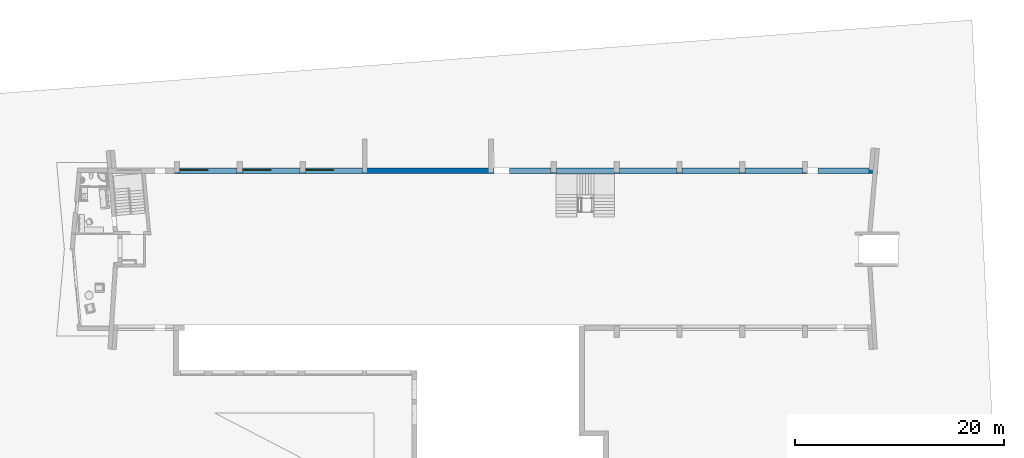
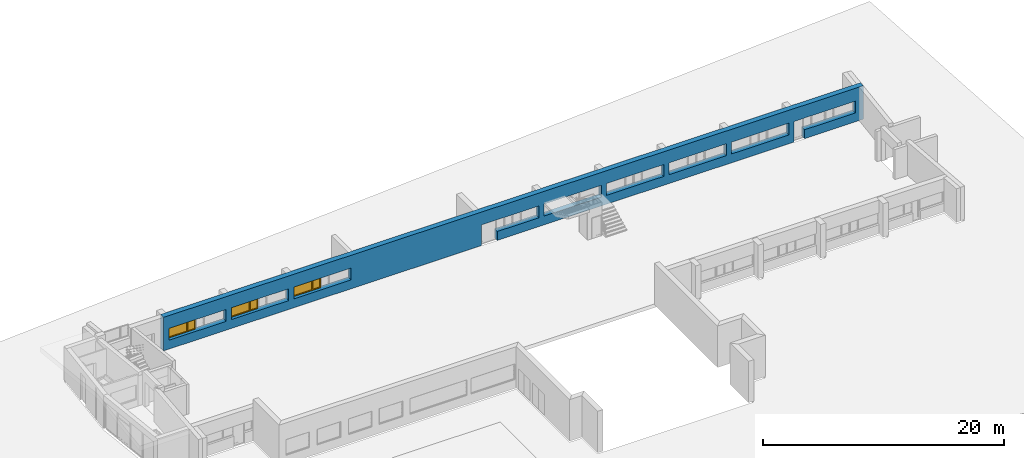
# One storey, part 5 of 36: 3 windows, 1 wall, 20 openings.
"""IFC2X3 building model written with IfcOpenShell, lengths in millimetres."""

import ifcopenshell
import ifcopenshell.guid

model = None  # the IFC model being written
_history = None  # IfcOwnerHistory: only IFC2X3 demands one
_inside = {}  # id of a spatial element -> (the spatial element, [elements in it])
_under = {}  # id of a project, library or spatial element -> (it, [spatial elements below it])
_declared = {}  # id of a project -> (the project, [libraries it declares])
_typed = {}  # id of a type object -> (the type object, [elements of that type])
_made_of = {}  # id of a material, layer set ... -> (it, [elements and type objects made of it])


def new_model(schema):
    """Start an empty IFC model of exactly this schema.

    Asked for "IFC4X3", IfcOpenShell would pick the latest addendum, in which some entities
    have other attributes; the version numbers below select the first issue.
    IFC2X3 requires an IfcOwnerHistory on every rooted entity: one is made here for all.
    """
    global model, _history
    if schema == "IFC4X3":
        model = ifcopenshell.file(schema_version=(4, 3, 0, 0))
    else:
        model = ifcopenshell.file(schema=schema)
    _inside.clear()
    _under.clear()
    _declared.clear()
    _typed.clear()
    _made_of.clear()
    _history = None
    if model.schema == "IFC2X3":
        org = make("IfcOrganization", Name="unknown")
        user = make(
            "IfcPersonAndOrganization",
            ThePerson=make("IfcPerson", FamilyName="unknown"),
            TheOrganization=org,
        )
        app = make(
            "IfcApplication",
            ApplicationDeveloper=org,
            Version="unknown",
            ApplicationFullName="unknown",
            ApplicationIdentifier="unknown",
        )
        _history = make(
            "IfcOwnerHistory",
            OwningUser=user,
            OwningApplication=app,
            ChangeAction="ADDED",
            CreationDate=0,
        )
    return model


def make(cls, **values):
    """One entity of the class cls with the attributes given. An attribute that is None is left unset."""
    return model.create_entity(
        cls, **{name: value for name, value in values.items() if value is not None}
    )


def entity(cls, *values):
    """Any entity or typed value of the class cls, its attributes in the order of the schema. None: left unset."""
    e = model.create_entity(cls)
    for i, value in enumerate(values):
        if value is not None:
            e[i] = value
    return e


def rooted(cls, **values):
    """An entity with a GlobalId (a new one), such as an element, a storey or a relation."""
    return make(cls, GlobalId=ifcopenshell.guid.new(), OwnerHistory=_history, **values)


def si_unit(unit_type, name, prefix=None):
    """IfcSIUnit, for example si_unit("LENGTHUNIT", "METRE", prefix="MILLI")."""
    return make("IfcSIUnit", UnitType=unit_type, Prefix=prefix, Name=name)


def converted_unit(unit_type, name, factor, base, dimensions=None, offset=None):
    """IfcConversionBasedUnit, such as the inch: factor (a typed value) times the base unit."""
    return make(
        "IfcConversionBasedUnit"
        if offset is None
        else "IfcConversionBasedUnitWithOffset",
        ConversionOffset=offset,
        Dimensions=None
        if dimensions is None
        else entity("IfcDimensionalExponents", *dimensions),
        UnitType=unit_type,
        Name=name,
        ConversionFactor=make(
            "IfcMeasureWithUnit", ValueComponent=factor, UnitComponent=base
        ),
    )


def money_unit(currency):
    """IfcMonetaryUnit."""
    return make("IfcMonetaryUnit", Currency=currency)


def assignment(units):
    """IfcUnitAssignment: the units of a project."""
    return None if units is None else make("IfcUnitAssignment", Units=units)


def point(xyz):
    """IfcCartesianPoint."""
    return None if xyz is None else make("IfcCartesianPoint", Coordinates=xyz)


def direction(xyz):
    """IfcDirection."""
    return None if xyz is None else make("IfcDirection", DirectionRatios=xyz)


def frame(location, z_axis=None, x_axis=None):
    """IfcAxis2Placement3D, a coordinate frame: its origin and axes. An axis left out is left unset."""
    return make(
        "IfcAxis2Placement3D",
        Location=point(location),
        Axis=direction(z_axis),
        RefDirection=direction(x_axis),
    )


def origin_with_axes():
    """The frame at (0, 0, 0) with the z axis (0, 0, 1) and the x axis (1, 0, 0) written out."""
    return frame((0.0, 0.0, 0.0), z_axis=(0.0, 0.0, 1.0), x_axis=(1.0, 0.0, 0.0))


def place(relative_to, where):
    """IfcLocalPlacement: puts the frame where relative to a parent placement (None: the world)."""
    return make(
        "IfcLocalPlacement", PlacementRelTo=relative_to, RelativePlacement=where
    )


def context(
    kind, dimensions, precision=None, world=None, true_north=None, identifier=None
):
    """IfcGeometricRepresentationContext, for example the 3D "Model" context."""
    return make(
        "IfcGeometricRepresentationContext",
        ContextIdentifier=identifier,
        ContextType=kind,
        CoordinateSpaceDimension=dimensions,
        Precision=precision,
        WorldCoordinateSystem=world,
        TrueNorth=true_north,
    )


def subcontext(parent, identifier, kind, view, scale=None):
    """IfcGeometricRepresentationSubContext, for example "Body" below "Model"."""
    return make(
        "IfcGeometricRepresentationSubContext",
        ContextIdentifier=identifier,
        ContextType=kind,
        ParentContext=parent,
        TargetScale=scale,
        TargetView=view,
    )


def project(units=None, contexts=None):
    """IfcProject with its units and contexts."""
    return rooted(
        "IfcProject",
        Name="project",
        RepresentationContexts=contexts,
        UnitsInContext=assignment(units),
    )


def spatial(cls, under=None, at=None, **own):
    """A site, building, storey or space (cls), placed at a placement, below another one or the project."""
    s = rooted(cls, ObjectPlacement=at, **own)
    if under is not None:
        _under.setdefault(under.id(), (under, []))[1].append(s)
    return s


def polyline(points):
    """IfcPolyline through the points."""
    return make("IfcPolyline", Points=[point(p) for p in points])


def outline(outer, holes=None, kind="AREA"):
    """IfcArbitraryClosedProfileDef: a profile drawn as a closed curve; with holes, ...WithVoids."""
    if holes is None:
        return make("IfcArbitraryClosedProfileDef", ProfileType=kind, OuterCurve=outer)
    return make(
        "IfcArbitraryProfileDefWithVoids",
        ProfileType=kind,
        OuterCurve=outer,
        InnerCurves=holes,
    )


def extrude(swept, where, along, depth):
    """IfcExtrudedAreaSolid: the profile swept, set in the frame where, extruded along a direction by depth."""
    return make(
        "IfcExtrudedAreaSolid",
        SweptArea=swept,
        Position=where,
        ExtrudedDirection=direction(along),
        Depth=depth,
    )


def faces_of(points, faces, orient=None, outer=None):
    """IfcFace entities. A face is a list of loops; a loop is a list of indices into points, from 0.

    orient and outer hold one flag for each loop. By default every Orientation is true, the
    first loop of a face is its IfcFaceOuterBound and the others are IfcFaceBound.
    """
    made = []
    for i, loops in enumerate(faces):
        bounds = []
        for j, loop in enumerate(loops):
            is_outer = j == 0 if outer is None else outer[i][j]
            bounds.append(
                make(
                    "IfcFaceOuterBound" if is_outer else "IfcFaceBound",
                    Bound=make("IfcPolyLoop", Polygon=[points[k] for k in loop]),
                    Orientation=True if orient is None else orient[i][j],
                )
            )
        made.append(make("IfcFace", Bounds=bounds))
    return made


def open_shell(faces, orient=None, outer=None):
    """The faces of one IfcOpenShell. surface_model builds it on its shared points."""
    return ("IfcOpenShell", faces, orient, outer)


def faceted_brep(points, faces, orient=None, outer=None, voids=None):
    """IfcFacetedBrep: a solid bounded by flat faces; with voids (closed shells), ...WithVoids."""
    shared = [point(p) for p in points]
    hull = make("IfcClosedShell", CfsFaces=faces_of(shared, faces, orient, outer))
    if voids is None:
        return make("IfcFacetedBrep", Outer=hull)
    return make(
        "IfcFacetedBrepWithVoids",
        Outer=hull,
        Voids=[
            make(cls, CfsFaces=faces_of(shared, fs, o, b)) for cls, fs, o, b in voids
        ],
    )


def surface_model(cls, points, shells):
    """IfcFaceBasedSurfaceModel or IfcShellBasedSurfaceModel (cls): surfaces that need not close."""
    shared = [point(p) for p in points]
    made = [make(c, CfsFaces=faces_of(shared, fs, o, b)) for c, fs, o, b in shells]
    if cls == "IfcFaceBasedSurfaceModel":
        return make(cls, FbsmFaces=made)
    return make(cls, SbsmBoundary=made)


def shape(context_of_items, identifier, shape_type, items):
    """IfcShapeRepresentation: the items that make up one representation, for example the "Body"."""
    return make(
        "IfcShapeRepresentation",
        ContextOfItems=context_of_items,
        RepresentationIdentifier=identifier,
        RepresentationType=shape_type,
        Items=items,
    )


def source(mapping_origin, context_of_items, identifier, shape_type, items):
    """IfcRepresentationMap: a shape defined once, which mapped items show again and again."""
    return make(
        "IfcRepresentationMap",
        MappingOrigin=mapping_origin,
        MappedRepresentation=shape(context_of_items, identifier, shape_type, items),
    )


def transform(
    local_origin,
    x_axis=None,
    y_axis=None,
    z_axis=None,
    scale=None,
    scale2=None,
    scale3=None,
    uniform=True,
):
    """IfcCartesianTransformationOperator3D, or its non-uniform kind. x_axis, y_axis, z_axis: its Axis1, 2, 3."""
    if uniform:
        return make(
            "IfcCartesianTransformationOperator3D",
            Axis1=direction(x_axis),
            Axis2=direction(y_axis),
            LocalOrigin=point(local_origin),
            Scale=scale,
            Axis3=direction(z_axis),
        )
    return make(
        "IfcCartesianTransformationOperator3DnonUniform",
        Axis1=direction(x_axis),
        Axis2=direction(y_axis),
        LocalOrigin=point(local_origin),
        Scale=scale,
        Axis3=direction(z_axis),
        Scale2=scale2,
        Scale3=scale3,
    )


def mapped(mapping_source, mapping_target):
    """IfcMappedItem: shows the shape of a source again, moved by a transform."""
    return make(
        "IfcMappedItem", MappingSource=mapping_source, MappingTarget=mapping_target
    )


def material(Name=None, Category=None):
    """IfcMaterial."""
    return make("IfcMaterial", Name=Name, Category=Category)


def material_list(materials):
    """IfcMaterialList."""
    return make("IfcMaterialList", Materials=materials)


def layer(
    of_material, thickness, ventilated=None, Name=None, Category=None, Priority=None
):
    """IfcMaterialLayer: one layer of a wall or slab, of a material (None: an air gap)."""
    return make(
        "IfcMaterialLayer",
        Material=of_material,
        LayerThickness=thickness,
        IsVentilated=ventilated,
        Name=Name,
        Category=Category,
        Priority=Priority,
    )


def layer_set(layers, Name=None):
    """IfcMaterialLayerSet."""
    return make("IfcMaterialLayerSet", MaterialLayers=layers, LayerSetName=Name)


def layer_usage(for_layer_set, set_direction, sense, offset, extent=None):
    """IfcMaterialLayerSetUsage: how a layer set lies in its element."""
    return make(
        "IfcMaterialLayerSetUsage",
        ForLayerSet=for_layer_set,
        LayerSetDirection=set_direction,
        DirectionSense=sense,
        OffsetFromReferenceLine=offset,
        ReferenceExtent=extent,
    )


def made_of(thing, what):
    """Note that an element or type object is made of a material, layer set ...; save() writes the relation."""
    if what is not None:
        _made_of.setdefault(what.id(), (what, []))[1].append(thing)
    return thing


def type_object(cls, material=None, **own):
    """A type object (cls), such as IfcWallType, which elements share."""
    return made_of(rooted(cls, **own), material)


def element(
    cls,
    number,
    at=None,
    inside=None,
    cuts=None,
    type_object=None,
    material=None,
    context=None,
    identifier="Body",
    shape_type=None,
    held_by="IfcProductDefinitionShape",
    body=None,
    shapes=None,
    **own,
):
    """One element of the class cls, such as IfcWall. Its Tag is "e" and its number.

    at: its placement. inside: the storey or other place that contains it. cuts: it is an
    opening in that element (IfcRelVoidsElement). A single representation is given by context,
    identifier, shape_type and body (its items); several are given by shapes. held_by: the class
    of the entity that holds the representations. save() writes the other relations.
    """
    e = rooted(cls, Tag="e%d" % number, ObjectPlacement=at, **own)
    if body is not None:
        shapes = [shape(context, identifier, shape_type, body)]
    if shapes is not None:
        e.Representation = make(held_by, Representations=shapes)
    if inside is not None:
        _inside.setdefault(inside.id(), (inside, []))[1].append(e)
    if cuts is not None:
        rooted(
            "IfcRelVoidsElement", RelatingBuildingElement=cuts, RelatedOpeningElement=e
        )
    if type_object is not None:
        _typed.setdefault(type_object.id(), (type_object, []))[1].append(e)
    return made_of(e, material)


def fill(opening, filler):
    """IfcRelFillsElement: the door or window that sits in an opening."""
    return rooted(
        "IfcRelFillsElement",
        RelatingOpeningElement=opening,
        RelatedBuildingElement=filler,
    )


def aggregate(whole, parts):
    """IfcRelAggregates: a whole, such as a stair, and the parts it consists of."""
    return rooted("IfcRelAggregates", RelatingObject=whole, RelatedObjects=parts)


def save(model, path):
    """Write the relations noted so far, then the file.

    IfcRelAggregates (storeys below a building ...), IfcRelContainedInSpatialStructure (elements
    in a storey), IfcRelDefinesByType, IfcRelAssociatesMaterial and IfcRelDeclares: one each for
    every whole, place, type object, material and project.
    """
    for whole, parts in _under.values():
        aggregate(whole, parts)
    for where, things in _inside.values():
        rooted(
            "IfcRelContainedInSpatialStructure",
            RelatedElements=things,
            RelatingStructure=where,
        )
    for kind, things in _typed.values():
        rooted("IfcRelDefinesByType", RelatedObjects=things, RelatingType=kind)
    for what, things in _made_of.values():
        rooted("IfcRelAssociatesMaterial", RelatedObjects=things, RelatingMaterial=what)
    for by, libraries in _declared.values():
        rooted("IfcRelDeclares", RelatingContext=by, RelatedDefinitions=libraries)
    model.write(path)


model = new_model("IFC2X3")

# Units and contexts
model_context = context("Model", 3, precision=1e-05, world=origin_with_axes(), true_north=direction((0.0, 1.0)))
body_context = subcontext(model_context, "Body", "Model", "MODEL_VIEW")
ifc_project = project(units=[si_unit("LENGTHUNIT", "METRE", prefix="MILLI"), si_unit("AREAUNIT", "SQUARE_METRE"), si_unit("VOLUMEUNIT", "CUBIC_METRE"), converted_unit("PLANEANGLEUNIT", "DEGREE", entity("IfcPlaneAngleMeasure", 0.0174532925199), si_unit("PLANEANGLEUNIT", "RADIAN"), dimensions=[0, 0, 0, 0, 0, 0, 0]), si_unit("SOLIDANGLEUNIT", "STERADIAN"), money_unit("USD"), converted_unit("TIMEUNIT", "Year", entity("IfcTimeMeasure", 31556926.0), si_unit("TIMEUNIT", "SECOND"), dimensions=[0, 0, 0, 0, 0, 0, 0]), si_unit("MASSUNIT", "GRAM"), si_unit("THERMODYNAMICTEMPERATUREUNIT", "DEGREE_CELSIUS"), si_unit("LUMINOUSINTENSITYUNIT", "LUMEN")], contexts=[model_context])

# Site, building, storey
site_placement = place(None, origin_with_axes())
site = spatial("IfcSite", under=ifc_project, at=site_placement, Name="Site", CompositionType="ELEMENT")
building_placement = place(site_placement, origin_with_axes())
building = spatial("IfcBuilding", under=site, at=building_placement, Name="Building", CompositionType="ELEMENT")
storey_placement = place(building_placement, frame((0.0, 0.0, -3400.0), z_axis=(0.0, 0.0, 1.0), x_axis=(1.0, 0.0, 0.0)))
storey = spatial("IfcBuildingStorey", under=building, at=storey_placement, Name="1KORRUS", CompositionType="ELEMENT", Elevation=-3400.0)

# Wall, openings, windows
ifc_material_1 = material(Name="Olemasolevad seinad tellis, uus viimistlus")
ifc_layer = layer(ifc_material_1, 500.0, ventilated="UNKNOWN")
ifc_layer_set = layer_set([ifc_layer], Name="Olemasolevad seinad tellis, uus viimistlus 500")
ifc_layer_usage = layer_usage(ifc_layer_set, "AXIS2", "POSITIVE", -100.0)
wall_type = type_object("IfcWallType", Name="Olemasolevad seinad tellis, uus viimistlus 500", PredefinedType="NOTDEFINED")
wall_placement = place(storey_placement, frame((-48393.8274049, -5039.6041088, 0.0), z_axis=(0.0, 0.0, 1.0), x_axis=(1.0, 0.0, 0.0)))
wall = element("IfcWallStandardCase", 1, at=wall_placement, inside=storey, type_object=wall_type, material=ifc_layer_usage, Name="VS1", ObjectType="VS1", context=body_context, shape_type="SweptSolid", body=[
    extrude(outline(polyline([(0.0, -100.0), (67149.8194303, -100.0), (67149.8194303, 400.0), (0.0, 400.0), (0.0, -100.0)])), origin_with_axes(), (0.0, 0.0, 1.0), 3400.0),
])
opening_1_placement = place(wall_placement, frame((1878.53070154, 0.0, 900.0), z_axis=(0.0, 0.0, 1.0), x_axis=(1.0, 0.0, 0.0)))
opening_1 = element("IfcOpeningElement", 2, at=opening_1_placement, cuts=wall, Name="Olemasolevad aknad jäävad", context=body_context, shape_type="SweptSolid", body=[
    extrude(outline(polyline([(-1375.0, 1200.0), (-1375.0, 0.0), (1375.0, 0.0), (1375.0, 1200.0), (-1375.0, 1200.0)])), frame((0.0, 250.0, 0.0), z_axis=(0.0, -1.0, 0.0), x_axis=(1.0, 0.0, 0.0)), (0.0, 0.0, 1.0), 850.0),
    extrude(outline(polyline([(-1375.0, 0.0), (-1375.0, -1200.0), (1375.0, -1200.0), (1375.0, 0.0), (-1375.0, 0.0)])), frame((0.0, 250.0, 0.0), z_axis=(0.0, 1.0, 0.0), x_axis=(1.0, 0.0, 0.0)), (0.0, 0.0, 1.0), 650.0),
])
opening_2_placement = place(wall_placement, frame((7878.53070154, 0.0, 900.0), z_axis=(0.0, 0.0, 1.0), x_axis=(1.0, 0.0, 0.0)))
opening_2 = element("IfcOpeningElement", 3, at=opening_2_placement, cuts=wall, Name="Olemasolevad aknad jäävad", context=body_context, shape_type="SweptSolid", body=[
    extrude(outline(polyline([(-1375.0, 1200.0), (-1375.0, 0.0), (1375.0, 0.0), (1375.0, 1200.0), (-1375.0, 1200.0)])), frame((0.0, 250.0, 0.0), z_axis=(0.0, -1.0, 0.0), x_axis=(1.0, 0.0, 0.0)), (0.0, 0.0, 1.0), 850.0),
    extrude(outline(polyline([(-1375.0, 0.0), (-1375.0, -1200.0), (1375.0, -1200.0), (1375.0, 0.0), (-1375.0, 0.0)])), frame((0.0, 250.0, 0.0), z_axis=(0.0, 1.0, 0.0), x_axis=(1.0, 0.0, 0.0)), (0.0, 0.0, 1.0), 650.0),
])
opening_3_placement = place(wall_placement, frame((13878.5307015, 0.0, 900.0), z_axis=(0.0, 0.0, 1.0), x_axis=(1.0, 0.0, 0.0)))
opening_3 = element("IfcOpeningElement", 4, at=opening_3_placement, cuts=wall, Name="Olemasolevad aknad jäävad", context=body_context, shape_type="SweptSolid", body=[
    extrude(outline(polyline([(-1375.0, 1200.0), (-1375.0, 0.0), (1375.0, 0.0), (1375.0, 1200.0), (-1375.0, 1200.0)])), frame((0.0, 250.0, 0.0), z_axis=(0.0, -1.0, 0.0), x_axis=(1.0, 0.0, 0.0)), (0.0, 0.0, 1.0), 850.0),
    extrude(outline(polyline([(-1375.0, 0.0), (-1375.0, -1200.0), (1375.0, -1200.0), (1375.0, 0.0), (-1375.0, 0.0)])), frame((0.0, 250.0, 0.0), z_axis=(0.0, 1.0, 0.0), x_axis=(1.0, 0.0, 0.0)), (0.0, 0.0, 1.0), 650.0),
])
opening_4_placement = place(wall_placement, frame((4628.53070154, 0.0, 900.0), z_axis=(0.0, 0.0, 1.0), x_axis=(1.0, 0.0, 0.0)))
element("IfcOpeningElement", 5, at=opening_4_placement, cuts=wall, Name="Olemasolevad aknad jäävad", context=body_context, shape_type="SweptSolid", body=[
    extrude(outline(polyline([(1375.0, 1200.0), (-1375.0, 1200.0), (-1375.0, 0.0), (1375.0, 0.0), (1375.0, 1200.0)])), frame((0.0, 250.0, 0.0), z_axis=(0.0, -1.0, 0.0), x_axis=(1.0, 0.0, 0.0)), (0.0, 0.0, 1.0), 850.0),
    extrude(outline(polyline([(1375.0, 0.0), (-1375.0, 0.0), (-1375.0, -1200.0), (1375.0, -1200.0), (1375.0, 0.0)])), frame((0.0, 250.0, 0.0), z_axis=(0.0, 1.0, 0.0), x_axis=(1.0, 0.0, 0.0)), (0.0, 0.0, 1.0), 650.0),
])
opening_5_placement = place(wall_placement, frame((10628.5307015, 0.0, 900.0), z_axis=(0.0, 0.0, 1.0), x_axis=(1.0, 0.0, 0.0)))
element("IfcOpeningElement", 6, at=opening_5_placement, cuts=wall, Name="Olemasolevad aknad jäävad", context=body_context, shape_type="SweptSolid", body=[
    extrude(outline(polyline([(1375.0, 1200.0), (-1375.0, 1200.0), (-1375.0, 0.0), (1375.0, 0.0), (1375.0, 1200.0)])), frame((0.0, 250.0, 0.0), z_axis=(0.0, -1.0, 0.0), x_axis=(1.0, 0.0, 0.0)), (0.0, 0.0, 1.0), 850.0),
    extrude(outline(polyline([(1375.0, 0.0), (-1375.0, 0.0), (-1375.0, -1200.0), (1375.0, -1200.0), (1375.0, 0.0)])), frame((0.0, 250.0, 0.0), z_axis=(0.0, 1.0, 0.0), x_axis=(1.0, 0.0, 0.0)), (0.0, 0.0, 1.0), 650.0),
])
opening_6_placement = place(wall_placement, frame((16616.9651775, 0.0, 900.0), z_axis=(0.0, 0.0, 1.0), x_axis=(1.0, 0.0, 0.0)))
element("IfcOpeningElement", 7, at=opening_6_placement, cuts=wall, Name="Olemasolevad aknad jäävad", context=body_context, shape_type="SweptSolid", body=[
    extrude(outline(polyline([(1375.0, 1200.0), (-1375.0, 1200.0), (-1375.0, 0.0), (1375.0, 0.0), (1375.0, 1200.0)])), frame((0.0, 250.0, 0.0), z_axis=(0.0, -1.0, 0.0), x_axis=(1.0, 0.0, 0.0)), (0.0, 0.0, 1.0), 850.0),
    extrude(outline(polyline([(1375.0, 0.0), (-1375.0, 0.0), (-1375.0, -1200.0), (1375.0, -1200.0), (1375.0, 0.0)])), frame((0.0, 250.0, 0.0), z_axis=(0.0, 1.0, 0.0), x_axis=(1.0, 0.0, 0.0)), (0.0, 0.0, 1.0), 650.0),
])
opening_7_placement = place(wall_placement, frame((34803.5307015, 0.0, 900.0), z_axis=(0.0, 0.0, 1.0), x_axis=(1.0, 0.0, 0.0)))
element("IfcOpeningElement", 8, at=opening_7_placement, cuts=wall, Name="Olemasolevad aknad jäävad", context=body_context, shape_type="SweptSolid", body=[
    extrude(outline(polyline([(1200.0, 0.0), (-1200.0, 0.0), (-1200.0, -1200.0), (1200.0, -1200.0), (1200.0, 0.0)])), frame((0.0, 100.0, 0.0), z_axis=(0.0, 1.0, 0.0), x_axis=(1.0, 0.0, 0.0)), (0.0, 0.0, 1.0), 800.0),
    extrude(outline(polyline([(1200.0, 1200.0), (-1200.0, 1200.0), (-1200.0, 0.0), (1200.0, 0.0), (1200.0, 1200.0)])), frame((0.0, 100.0, 0.0), z_axis=(0.0, -1.0, 0.0), x_axis=(1.0, 0.0, 0.0)), (0.0, 0.0, 1.0), 700.0),
])
opening_8_placement = place(wall_placement, frame((40625.1633636, 0.0, 900.0), z_axis=(0.0, 0.0, 1.0), x_axis=(1.0, 0.0, 0.0)))
element("IfcOpeningElement", 9, at=opening_8_placement, cuts=wall, Name="Olemasolevad aknad jäävad", context=body_context, shape_type="SweptSolid", body=[
    extrude(outline(polyline([(1400.0, 0.0), (-1400.0, 0.0), (-1400.0, -1200.0), (1400.0, -1200.0), (1400.0, 0.0)])), frame((0.0, 100.0, 0.0), z_axis=(0.0, 1.0, 0.0), x_axis=(1.0, 0.0, 0.0)), (0.0, 0.0, 1.0), 800.0),
    extrude(outline(polyline([(1400.0, 1200.0), (-1400.0, 1200.0), (-1400.0, 0.0), (1400.0, 0.0), (1400.0, 1200.0)])), frame((0.0, 100.0, 0.0), z_axis=(0.0, -1.0, 0.0), x_axis=(1.0, 0.0, 0.0)), (0.0, 0.0, 1.0), 700.0),
])
opening_9_placement = place(wall_placement, frame((37871.3218818, 0.0, 900.0), z_axis=(0.0, 0.0, 1.0), x_axis=(1.0, 0.0, 0.0)))
element("IfcOpeningElement", 10, at=opening_9_placement, cuts=wall, Name="Olemasolevad aknad jäävad", context=body_context, shape_type="SweptSolid", body=[
    extrude(outline(polyline([(-1367.791, 0.0), (-1367.791, -1200.0), (1367.791, -1200.0), (1367.791, 0.0), (-1367.791, 0.0)])), frame((0.0, 150.0, 0.0), z_axis=(0.0, 1.0, 0.0), x_axis=(1.0, 0.0, 0.0)), (0.0, 0.0, 1.0), 750.0),
    extrude(outline(polyline([(-1367.791, 1200.0), (-1367.791, 0.0), (1367.791, 0.0), (1367.791, 1200.0), (-1367.791, 1200.0)])), frame((0.0, 150.0, 0.0), z_axis=(0.0, -1.0, 0.0), x_axis=(1.0, 0.0, 0.0)), (0.0, 0.0, 1.0), 750.0),
])
opening_10_placement = place(wall_placement, frame((46628.5307015, 0.0, 900.0), z_axis=(0.0, 0.0, 1.0), x_axis=(1.0, 0.0, 0.0)))
element("IfcOpeningElement", 11, at=opening_10_placement, cuts=wall, Name="Olemasolevad aknad jäävad", context=body_context, shape_type="SweptSolid", body=[
    extrude(outline(polyline([(1375.0, 1200.0), (-1375.0, 1200.0), (-1375.0, 0.0), (1375.0, 0.0), (1375.0, 1200.0)])), frame((0.0, 150.0, 0.0), z_axis=(0.0, -1.0, 0.0), x_axis=(1.0, 0.0, 0.0)), (0.0, 0.0, 1.0), 750.0),
    extrude(outline(polyline([(1375.0, 0.0), (-1375.0, 0.0), (-1375.0, -1200.0), (1375.0, -1200.0), (1375.0, 0.0)])), frame((0.0, 150.0, 0.0), z_axis=(0.0, 1.0, 0.0), x_axis=(1.0, 0.0, 0.0)), (0.0, 0.0, 1.0), 750.0),
])
opening_11_placement = place(wall_placement, frame((43878.5307015, 0.0, 900.0), z_axis=(0.0, 0.0, 1.0), x_axis=(1.0, 0.0, 0.0)))
element("IfcOpeningElement", 12, at=opening_11_placement, cuts=wall, Name="Olemasolevad aknad jäävad", context=body_context, shape_type="SweptSolid", body=[
    extrude(outline(polyline([(-1375.0, 1200.0), (-1375.0, 0.0), (1375.0, 0.0), (1375.0, 1200.0), (-1375.0, 1200.0)])), frame((0.0, 200.0, 0.0), z_axis=(0.0, -1.0, 0.0), x_axis=(1.0, 0.0, 0.0)), (0.0, 0.0, 1.0), 800.0),
    extrude(outline(polyline([(-1375.0, 0.0), (-1375.0, -1200.0), (1375.0, -1200.0), (1375.0, 0.0), (-1375.0, 0.0)])), frame((0.0, 200.0, 0.0), z_axis=(0.0, 1.0, 0.0), x_axis=(1.0, 0.0, 0.0)), (0.0, 0.0, 1.0), 700.0),
])
opening_12_placement = place(wall_placement, frame((52635.3834465, 0.0, 900.0), z_axis=(0.0, 0.0, 1.0), x_axis=(1.0, 0.0, 0.0)))
element("IfcOpeningElement", 13, at=opening_12_placement, cuts=wall, Name="Olemasolevad aknad jäävad", context=body_context, shape_type="SweptSolid", body=[
    extrude(outline(polyline([(1376.809, 1200.0), (-1376.809, 1200.0), (-1376.809, 0.0), (1376.809, 0.0), (1376.809, 1200.0)])), frame((0.0, 150.0, 0.0), z_axis=(0.0, -1.0, 0.0), x_axis=(1.0, 0.0, 0.0)), (0.0, 0.0, 1.0), 750.0),
    extrude(outline(polyline([(1376.809, 0.0), (-1376.809, 0.0), (-1376.809, -1200.0), (1376.809, -1200.0), (1376.809, 0.0)])), frame((0.0, 150.0, 0.0), z_axis=(0.0, 1.0, 0.0), x_axis=(1.0, 0.0, 0.0)), (0.0, 0.0, 1.0), 750.0),
])
opening_13_placement = place(wall_placement, frame((49883.9987013, 0.0, 900.0), z_axis=(0.0, 0.0, 1.0), x_axis=(1.0, 0.0, 0.0)))
element("IfcOpeningElement", 14, at=opening_13_placement, cuts=wall, Name="Olemasolevad aknad jäävad", context=body_context, shape_type="SweptSolid", body=[
    extrude(outline(polyline([(-1375.0, 1200.0), (-1375.0, 0.0), (1375.0, 0.0), (1375.0, 1200.0), (-1375.0, 1200.0)])), frame((0.0, 200.0, 0.0), z_axis=(0.0, -1.0, 0.0), x_axis=(1.0, 0.0, 0.0)), (0.0, 0.0, 1.0), 800.0),
    extrude(outline(polyline([(-1375.0, 0.0), (-1375.0, -1200.0), (1375.0, -1200.0), (1375.0, 0.0), (-1375.0, 0.0)])), frame((0.0, 200.0, 0.0), z_axis=(0.0, 1.0, 0.0), x_axis=(1.0, 0.0, 0.0)), (0.0, 0.0, 1.0), 700.0),
])
opening_14_placement = place(wall_placement, frame((58631.8843372, 0.0, 900.0), z_axis=(0.0, 0.0, 1.0), x_axis=(1.0, 0.0, 0.0)))
element("IfcOpeningElement", 15, at=opening_14_placement, cuts=wall, Name="Olemasolevad aknad jäävad", context=body_context, shape_type="SweptSolid", body=[
    extrude(outline(polyline([(1371.646, 1200.0), (-1371.646, 1200.0), (-1371.646, 0.0), (1371.646, 0.0), (1371.646, 1200.0)])), frame((0.0, 150.0, 0.0), z_axis=(0.0, -1.0, 0.0), x_axis=(1.0, 0.0, 0.0)), (0.0, 0.0, 1.0), 750.0),
    extrude(outline(polyline([(1371.646, 0.0), (-1371.646, 0.0), (-1371.646, -1200.0), (1371.646, -1200.0), (1371.646, 0.0)])), frame((0.0, 150.0, 0.0), z_axis=(0.0, 1.0, 0.0), x_axis=(1.0, 0.0, 0.0)), (0.0, 0.0, 1.0), 750.0),
])
opening_15_placement = place(wall_placement, frame((55886.6217615, 0.0, 900.0), z_axis=(0.0, 0.0, 1.0), x_axis=(1.0, 0.0, 0.0)))
element("IfcOpeningElement", 16, at=opening_15_placement, cuts=wall, Name="Olemasolevad aknad jäävad", context=body_context, shape_type="SweptSolid", body=[
    extrude(outline(polyline([(-1375.0, 1200.0), (-1375.0, 0.0), (1375.0, 0.0), (1375.0, 1200.0), (-1375.0, 1200.0)])), frame((0.0, 200.0, 0.0), z_axis=(0.0, -1.0, 0.0), x_axis=(1.0, 0.0, 0.0)), (0.0, 0.0, 1.0), 800.0),
    extrude(outline(polyline([(-1375.0, 0.0), (-1375.0, -1200.0), (1375.0, -1200.0), (1375.0, 0.0), (-1375.0, 0.0)])), frame((0.0, 200.0, 0.0), z_axis=(0.0, 1.0, 0.0), x_axis=(1.0, 0.0, 0.0)), (0.0, 0.0, 1.0), 700.0),
])
opening_16_placement = place(wall_placement, frame((64995.2517085, 0.0, 900.0), z_axis=(0.0, 0.0, 1.0), x_axis=(1.0, 0.0, 0.0)))
element("IfcOpeningElement", 17, at=opening_16_placement, cuts=wall, Name="Olemasolevad aknad jäävad", context=body_context, shape_type="SweptSolid", body=[
    extrude(outline(polyline([(1375.0, 1200.0), (-1375.0, 1200.0), (-1375.0, 0.0), (1375.0, 0.0), (1375.0, 1200.0)])), frame((0.0, 150.0, 0.0), z_axis=(0.0, -1.0, 0.0), x_axis=(1.0, 0.0, 0.0)), (0.0, 0.0, 1.0), 750.0),
    extrude(outline(polyline([(1375.0, 0.0), (-1375.0, 0.0), (-1375.0, -1200.0), (1375.0, -1200.0), (1375.0, 0.0)])), frame((0.0, 150.0, 0.0), z_axis=(0.0, 1.0, 0.0), x_axis=(1.0, 0.0, 0.0)), (0.0, 0.0, 1.0), 750.0),
])
opening_17_placement = place(wall_placement, frame((32810.8244307, 0.0, 900.0), z_axis=(0.0, 0.0, 1.0), x_axis=(1.0, 0.0, 0.0)))
element("IfcOpeningElement", 18, at=opening_17_placement, cuts=wall, Name="Olemasolevad aknad jäävad", context=body_context, shape_type="SweptSolid", body=[
    extrude(outline(polyline([(792.706, 0.0), (-792.706, 0.0), (-792.706, -1200.0), (792.706, -1200.0), (792.706, 0.0)])), frame((0.0, 100.0, 0.0), z_axis=(0.0, 1.0, 0.0), x_axis=(1.0, 0.0, 0.0)), (0.0, 0.0, 1.0), 800.0),
    extrude(outline(polyline([(792.706, 1200.0), (-792.706, 1200.0), (-792.706, 0.0), (792.706, 0.0), (792.706, 1200.0)])), frame((0.0, 100.0, 0.0), z_axis=(0.0, -1.0, 0.0), x_axis=(1.0, 0.0, 0.0)), (0.0, 0.0, 1.0), 700.0),
])
opening_18_placement = place(wall_placement, frame((62561.891205, 0.0, 900.0), z_axis=(0.0, 0.0, 1.0), x_axis=(1.0, 0.0, 0.0)))
element("IfcOpeningElement", 19, at=opening_18_placement, cuts=wall, Name="Olemasolevad aknad jäävad", context=body_context, shape_type="SweptSolid", body=[
    extrude(outline(polyline([(1058.361, 1200.0), (-1058.361, 1200.0), (-1058.361, 0.0), (1058.361, 0.0), (1058.361, 1200.0)])), frame((0.0, 150.0, 0.0), z_axis=(0.0, -1.0, 0.0), x_axis=(1.0, 0.0, 0.0)), (0.0, 0.0, 1.0), 750.0),
    extrude(outline(polyline([(1058.361, 0.0), (-1058.361, 0.0), (-1058.361, -1200.0), (1058.361, -1200.0), (1058.361, 0.0)])), frame((0.0, 150.0, 0.0), z_axis=(0.0, 1.0, 0.0), x_axis=(1.0, 0.0, 0.0)), (0.0, 0.0, 1.0), 750.0),
])
opening_19_placement = place(wall_placement, frame((61003.5307015, 0.0, -4.66441168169), z_axis=(0.0, 0.0, 1.0), x_axis=(1.0, 0.0, 0.0)))
element("IfcOpeningElement", 20, at=opening_19_placement, cuts=wall, Name="ava", context=body_context, shape_type="SweptSolid", body=[
    extrude(outline(polyline([(-500.0, 2100.0), (-500.0, 0.0), (500.0, 0.0), (500.0, 2100.0), (-500.0, 2100.0)])), frame((0.0, 200.0, 0.0), z_axis=(0.0, 1.0, 0.0), x_axis=(-1.0, 0.0, 0.0)), (0.0, 0.0, -1.0), 800.0),
    extrude(outline(polyline([(-500.0, 0.0), (-500.0, -2100.0), (500.0, -2100.0), (500.0, 0.0), (-500.0, 0.0)])), frame((0.0, 200.0, 0.0), z_axis=(0.0, -1.0, 0.0), x_axis=(-1.0, 0.0, 0.0)), (0.0, 0.0, -1.0), 700.0),
])
opening_20_placement = place(wall_placement, frame((31268.1181599, 0.0, 0.0), z_axis=(0.0, 0.0, 1.0), x_axis=(1.0, 0.0, 0.0)))
element("IfcOpeningElement", 21, at=opening_20_placement, cuts=wall, Name="ava", context=body_context, shape_type="SweptSolid", body=[
    extrude(outline(polyline([(-750.0, 2100.0), (-750.0, 0.0), (750.0, 0.0), (750.0, 2100.0), (-750.0, 2100.0)])), frame((0.0, 200.0, 0.0), z_axis=(0.0, -1.0, 0.0), x_axis=(1.0, 0.0, 0.0)), (0.0, 0.0, 1.0), 800.0),
    extrude(outline(polyline([(-750.0, 0.0), (-750.0, -2100.0), (750.0, -2100.0), (750.0, 0.0), (-750.0, 0.0)])), frame((0.0, 200.0, 0.0), z_axis=(0.0, 1.0, 0.0), x_axis=(1.0, 0.0, 0.0)), (0.0, 0.0, 1.0), 700.0),
])
ifc_material_2 = material(Name="Background")
ifc_material_list = material_list([ifc_material_2])
window_style = type_object("IfcWindowStyle", Name="Double Window 19", ConstructionType="NOTDEFINED", OperationType="DOUBLE_PANEL_VERTICAL", ParameterTakesPrecedence=False, Sizeable=False)
shared_shape = source(origin_with_axes(), body_context, "Body", "SurfaceModel", [
    faceted_brep([(-1350.0, -150.0, 1150.0), (-1375.0, -150.0, 1150.0), (-1375.0, -200.0, 1150.0), (-1325.0, -200.0, 1150.0), (-1325.0, -175.0, 1150.0), (-1350.0, -175.0, 1150.0), (-1350.0, -150.0, 50.0), (-1375.0, -150.0, 50.0), (-1375.0, -200.0, 50.0), (-1325.0, -200.0, 50.0), (-1325.0, -175.0, 50.0), (-1350.0, -175.0, 50.0)], [[[0, 1, 2, 3, 4, 5]], [[6, 7, 1, 0]], [[1, 7, 8, 2]], [[2, 8, 9, 3]], [[4, 3, 9, 10]], [[10, 11, 5, 4]], [[5, 11, 6, 0]], [[11, 10, 9, 8, 7, 6]]]),
    faceted_brep([(1325.0, -175.0, 1150.0), (1325.0, -200.0, 1150.0), (1375.0, -200.0, 1150.0), (1375.0, -150.0, 1150.0), (1350.0, -150.0, 1150.0), (1350.0, -175.0, 1150.0), (1325.0, -175.0, 50.0), (1325.0, -200.0, 50.0), (1375.0, -200.0, 50.0), (1375.0, -150.0, 50.0), (1350.0, -150.0, 50.0), (1350.0, -175.0, 50.0)], [[[0, 1, 2, 3, 4, 5]], [[6, 7, 1, 0]], [[8, 2, 1, 7]], [[9, 3, 2, 8]], [[4, 3, 9, 10]], [[10, 11, 5, 4]], [[5, 11, 6, 0]], [[11, 10, 9, 8, 7, 6]]]),
    faceted_brep([(525.0, -175.0, 1150.0), (525.0, -200.0, 1150.0), (625.0, -200.0, 1150.0), (625.0, -175.0, 1150.0), (600.0, -175.0, 1150.0), (600.0, -150.0, 1150.0), (550.0, -150.0, 1150.0), (550.0, -175.0, 1150.0), (525.0, -175.0, 50.0), (525.0, -200.0, 50.0), (625.0, -200.0, 50.0), (625.0, -175.0, 50.0), (600.0, -175.0, 50.0), (600.0, -150.0, 50.0), (550.0, -150.0, 50.0), (550.0, -175.0, 50.0)], [[[0, 1, 2, 3, 4, 5, 6, 7]], [[8, 9, 1, 0]], [[10, 2, 1, 9]], [[3, 2, 10, 11]], [[11, 12, 4, 3]], [[4, 12, 13, 5]], [[6, 5, 13, 14]], [[14, 15, 7, 6]], [[7, 15, 8, 0]], [[15, 14, 13, 12, 11, 10, 9, 8]]]),
    faceted_brep([(525.0, -175.0, 50.0), (525.0, -200.0, 50.0), (625.0, -200.0, 50.0), (625.0, -175.0, 50.0), (600.0, -175.0, 50.0), (600.0, -150.0, 50.0), (550.0, -150.0, 50.0), (550.0, -175.0, 50.0), (-1325.0, -175.0, 50.0), (-1325.0, -200.0, 50.0), (-1375.0, -200.0, 50.0), (-1375.0, -200.0, 0.0), (1375.0, -200.0, 0.0), (1375.0, -200.0, 50.0), (1325.0, -200.0, 50.0), (1325.0, -175.0, 50.0), (1350.0, -175.0, 50.0), (1350.0, -175.0, 25.0), (600.0, -175.0, 25.0), (600.0, -150.0, 25.0), (-1350.0, -150.0, 25.0), (550.0, -150.0, 25.0), (1350.0, -150.0, 25.0), (1350.0, -150.0, 50.0), (1375.0, -150.0, 50.0), (1375.0, -150.0, 0.0), (-1375.0, -150.0, 0.0), (-1375.0, -150.0, 50.0), (-1350.0, -150.0, 50.0), (550.0, -175.0, 25.0), (-1350.0, -175.0, 25.0), (-1350.0, -175.0, 50.0)], [[[0, 1, 2, 3, 4, 5, 6, 7]], [[8, 9, 1, 0]], [[10, 11, 12, 13, 14, 2, 1, 9]], [[3, 2, 14, 15]], [[16, 17, 18, 4, 3, 15]], [[4, 18, 19, 5]], [[20, 21, 6, 5, 19, 22, 23, 24, 25, 26, 27, 28]], [[21, 29, 7, 6]], [[7, 29, 30, 31, 8, 0]], [[31, 28, 27, 10, 9, 8]], [[27, 26, 11, 10]], [[26, 25, 12, 11]], [[25, 24, 13, 12]], [[15, 14, 13, 24, 23, 16]], [[22, 17, 16, 23]], [[19, 18, 17, 22]], [[20, 30, 29, 21]], [[31, 30, 20, 28]]]),
    faceted_brep([(-1350.0, -150.0, 1150.0), (-1375.0, -150.0, 1150.0), (-1375.0, -150.0, 1200.0), (1375.0, -150.0, 1200.0), (1375.0, -150.0, 1150.0), (1350.0, -150.0, 1150.0), (1350.0, -150.0, 1175.0), (600.0, -150.0, 1175.0), (600.0, -150.0, 1150.0), (550.0, -150.0, 1150.0), (550.0, -150.0, 1175.0), (-1350.0, -150.0, 1175.0), (-1350.0, -175.0, 1150.0), (-1325.0, -175.0, 1150.0), (-1325.0, -200.0, 1150.0), (-1375.0, -200.0, 1150.0), (-1375.0, -200.0, 1200.0), (1375.0, -200.0, 1200.0), (1375.0, -200.0, 1150.0), (1350.0, -175.0, 1150.0), (1325.0, -200.0, 1150.0), (1325.0, -175.0, 1150.0), (1350.0, -175.0, 1175.0), (600.0, -175.0, 1175.0), (600.0, -175.0, 1150.0), (550.0, -175.0, 1150.0), (625.0, -175.0, 1150.0), (625.0, -200.0, 1150.0), (525.0, -200.0, 1150.0), (525.0, -175.0, 1150.0), (550.0, -175.0, 1175.0), (-1350.0, -175.0, 1175.0)], [[[0, 1, 2, 3, 4, 5, 6, 7, 8, 9, 10, 11]], [[12, 13, 14, 15, 1, 0]], [[2, 1, 15, 16]], [[3, 2, 16, 17]], [[4, 3, 17, 18]], [[19, 5, 4, 18, 20, 21]], [[5, 19, 22, 6]], [[6, 22, 23, 7]], [[7, 23, 24, 8]], [[25, 9, 8, 24, 26, 27, 28, 29]], [[9, 25, 30, 10]], [[10, 30, 31, 11]], [[11, 31, 12, 0]], [[29, 13, 12, 31, 30, 25]], [[29, 28, 14, 13]], [[27, 20, 18, 17, 16, 15, 14, 28]], [[21, 20, 27, 26]], [[21, 26, 24, 23, 22, 19]]]),
    faceted_brep([(-1300.0, -175.0, 1125.0), (-1300.0, -125.0, 1125.0), (-1350.0, -125.0, 1125.0), (-1350.0, -175.0, 1125.0), (-1300.0, -175.0, 75.0), (-1300.0, -125.0, 75.0), (-1350.0, -125.0, 75.0), (-1350.0, -175.0, 75.0)], [[[0, 1, 2, 3]], [[4, 5, 1, 0]], [[1, 5, 6, 2]], [[3, 2, 6, 7]], [[0, 3, 7, 4]], [[7, 6, 5, 4]]]),
    faceted_brep([(500.0, -175.0, 75.0), (500.0, -125.0, 75.0), (550.0, -125.0, 75.0), (550.0, -175.0, 75.0), (500.0, -175.0, 1125.0), (500.0, -125.0, 1125.0), (550.0, -125.0, 1125.0), (550.0, -175.0, 1125.0)], [[[0, 1, 2, 3]], [[4, 5, 1, 0]], [[1, 5, 6, 2]], [[3, 2, 6, 7]], [[0, 3, 7, 4]], [[7, 6, 5, 4]]]),
    faceted_brep([(550.0, -175.0, 25.0), (550.0, -125.0, 25.0), (550.0, -125.0, 75.0), (550.0, -175.0, 75.0), (-1350.0, -175.0, 25.0), (-1350.0, -125.0, 25.0), (-1350.0, -125.0, 75.0), (-1300.0, -125.0, 75.0), (500.0, -125.0, 75.0), (500.0, -175.0, 75.0), (-1300.0, -175.0, 75.0), (-1350.0, -175.0, 75.0)], [[[0, 1, 2, 3]], [[4, 5, 1, 0]], [[1, 5, 6, 7, 8, 2]], [[3, 2, 8, 9]], [[0, 3, 9, 10, 11, 4]], [[11, 6, 5, 4]], [[10, 7, 6, 11]], [[9, 8, 7, 10]]]),
    faceted_brep([(-1350.0, -175.0, 1175.0), (-1350.0, -125.0, 1175.0), (-1350.0, -125.0, 1125.0), (-1350.0, -175.0, 1125.0), (550.0, -175.0, 1175.0), (550.0, -125.0, 1175.0), (550.0, -125.0, 1125.0), (500.0, -125.0, 1125.0), (-1300.0, -125.0, 1125.0), (-1300.0, -175.0, 1125.0), (500.0, -175.0, 1125.0), (550.0, -175.0, 1125.0)], [[[0, 1, 2, 3]], [[4, 5, 1, 0]], [[1, 5, 6, 7, 8, 2]], [[3, 2, 8, 9]], [[0, 3, 9, 10, 11, 4]], [[11, 6, 5, 4]], [[10, 7, 6, 11]], [[9, 8, 7, 10]]]),
    surface_model("IfcShellBasedSurfaceModel", [(-1300.0, -160.0, 75.0), (500.0, -160.0, 75.0), (500.0, -160.0, 1125.0), (-1300.0, -160.0, 1125.0)], [open_shell([[[0, 1, 2, 3]]])]),
    surface_model("IfcShellBasedSurfaceModel", [(-1300.0, -140.0, 75.0), (-1300.0, -140.0, 1125.0), (500.0, -140.0, 1125.0), (500.0, -140.0, 75.0)], [open_shell([[[0, 1, 2, 3]]])]),
    faceted_brep([(650.0, -175.0, 1125.0), (650.0, -125.0, 1125.0), (600.0, -125.0, 1125.0), (600.0, -175.0, 1125.0), (650.0, -175.0, 75.0), (650.0, -125.0, 75.0), (600.0, -125.0, 75.0), (600.0, -175.0, 75.0)], [[[0, 1, 2, 3]], [[4, 5, 1, 0]], [[1, 5, 6, 2]], [[3, 2, 6, 7]], [[0, 3, 7, 4]], [[7, 6, 5, 4]]]),
    faceted_brep([(1300.0, -175.0, 75.0), (1300.0, -125.0, 75.0), (1350.0, -125.0, 75.0), (1350.0, -175.0, 75.0), (1300.0, -175.0, 1125.0), (1300.0, -125.0, 1125.0), (1350.0, -125.0, 1125.0), (1350.0, -175.0, 1125.0)], [[[0, 1, 2, 3]], [[4, 5, 1, 0]], [[1, 5, 6, 2]], [[3, 2, 6, 7]], [[0, 3, 7, 4]], [[7, 6, 5, 4]]]),
    faceted_brep([(1350.0, -175.0, 25.0), (1350.0, -125.0, 25.0), (1350.0, -125.0, 75.0), (1350.0, -175.0, 75.0), (600.0, -175.0, 25.0), (600.0, -125.0, 25.0), (600.0, -125.0, 75.0), (650.0, -125.0, 75.0), (1300.0, -125.0, 75.0), (1300.0, -175.0, 75.0), (650.0, -175.0, 75.0), (600.0, -175.0, 75.0)], [[[0, 1, 2, 3]], [[4, 5, 1, 0]], [[1, 5, 6, 7, 8, 2]], [[3, 2, 8, 9]], [[0, 3, 9, 10, 11, 4]], [[11, 6, 5, 4]], [[10, 7, 6, 11]], [[9, 8, 7, 10]]]),
    faceted_brep([(600.0, -175.0, 1175.0), (600.0, -125.0, 1175.0), (600.0, -125.0, 1125.0), (600.0, -175.0, 1125.0), (1350.0, -175.0, 1175.0), (1350.0, -125.0, 1175.0), (1350.0, -125.0, 1125.0), (1300.0, -125.0, 1125.0), (650.0, -125.0, 1125.0), (650.0, -175.0, 1125.0), (1300.0, -175.0, 1125.0), (1350.0, -175.0, 1125.0)], [[[0, 1, 2, 3]], [[4, 5, 1, 0]], [[1, 5, 6, 7, 8, 2]], [[3, 2, 8, 9]], [[0, 3, 9, 10, 11, 4]], [[11, 6, 5, 4]], [[10, 7, 6, 11]], [[9, 8, 7, 10]]]),
    surface_model("IfcShellBasedSurfaceModel", [(650.0, -160.0, 75.0), (1300.0, -160.0, 75.0), (1300.0, -160.0, 1125.0), (650.0, -160.0, 1125.0)], [open_shell([[[0, 1, 2, 3]]])]),
    surface_model("IfcShellBasedSurfaceModel", [(650.0, -140.0, 75.0), (650.0, -140.0, 1125.0), (1300.0, -140.0, 1125.0), (1300.0, -140.0, 75.0)], [open_shell([[[0, 1, 2, 3]]])]),
])
window_1_placement = place(opening_1_placement, frame((-1375.0, 0.0, 0.0), z_axis=(0.0, 0.0, 1.0), x_axis=(1.0, 0.0, 0.0)))
window_1 = element("IfcWindow", 22, at=window_1_placement, inside=storey, type_object=window_style, material=ifc_material_list, Name="Olemasolevad aknad jäävad", ObjectType="Olemasolevad aknad jäävad", OverallHeight=1200.0, OverallWidth=2750.0, context=body_context, shape_type="MappedRepresentation", body=[
    mapped(shared_shape, transform((1375.0, 400.0, 0.0))),
])
fill(opening_1, window_1)
window_2_placement = place(opening_2_placement, frame((-1375.0, 0.0, 0.0), z_axis=(0.0, 0.0, 1.0), x_axis=(1.0, 0.0, 0.0)))
window_2 = element("IfcWindow", 23, at=window_2_placement, inside=storey, type_object=window_style, material=ifc_material_list, Name="Olemasolevad aknad jäävad", ObjectType="Olemasolevad aknad jäävad", OverallHeight=1200.0, OverallWidth=2750.0, context=body_context, shape_type="MappedRepresentation", body=[
    mapped(shared_shape, transform((1375.0, 400.0, 0.0))),
])
fill(opening_2, window_2)
window_3_placement = place(opening_3_placement, frame((-1375.0, 0.0, 0.0), z_axis=(0.0, 0.0, 1.0), x_axis=(1.0, 0.0, 0.0)))
window_3 = element("IfcWindow", 24, at=window_3_placement, inside=storey, type_object=window_style, material=ifc_material_list, Name="Olemasolevad aknad jäävad", ObjectType="Olemasolevad aknad jäävad", OverallHeight=1200.0, OverallWidth=2750.0, context=body_context, shape_type="MappedRepresentation", body=[
    mapped(shared_shape, transform((1375.0, 400.0, 0.0))),
])
fill(opening_3, window_3)

save(model, "model.ifc")
